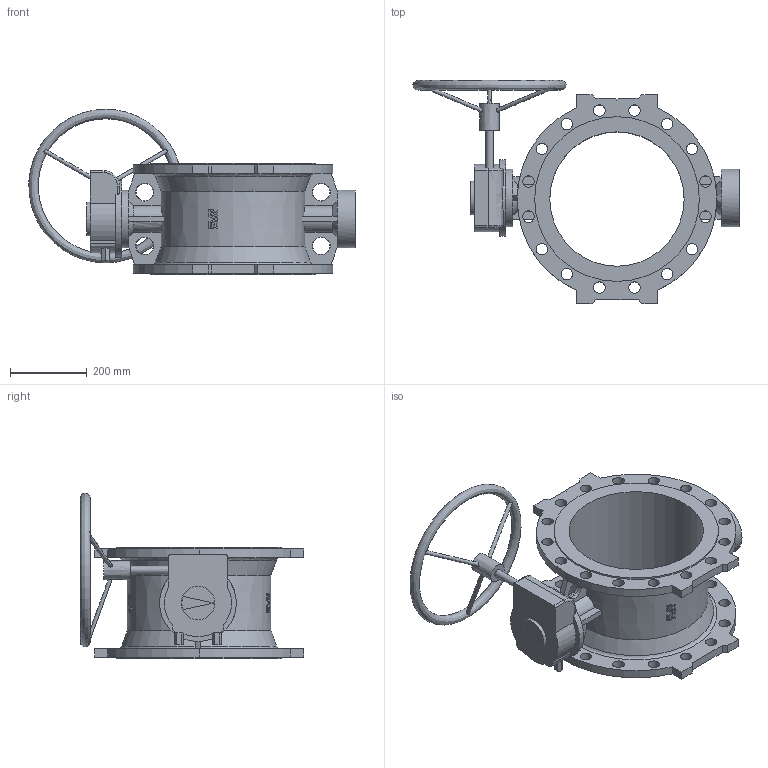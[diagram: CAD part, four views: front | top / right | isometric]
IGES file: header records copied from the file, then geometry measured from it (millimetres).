
Start section: SolidWorks IGES file using analytic representation for surfaces
Global section: file name: \\avksan2\techshare\PBM outline export from Enovia\O_756_1_DN350_1XX00_AA0_igs.igs; native system: SolidWorks 2012; preprocessor: SolidWorks 2012; author: pbm; date: 160304.123938; units: millimetre
Bounding box: 849.52 x 581 x 430.97 mm (x, y, z)
Surface area: 1531766.4 mm2 (no closed solid volume)
Topology: 0 solids, 0 shells, 358 faces, 2962 edges, 2868 vertices
Faces by surface type: bspline 251, revolution 107
